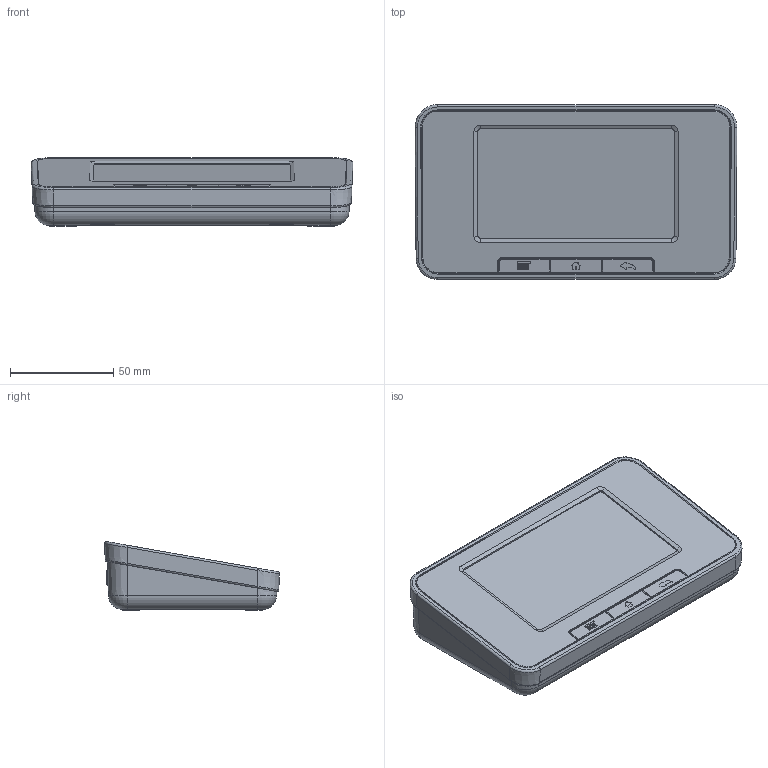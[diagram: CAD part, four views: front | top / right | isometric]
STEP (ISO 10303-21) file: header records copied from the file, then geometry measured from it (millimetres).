
FILE_DESCRIPTION (( 'STEP AP203' ), '1' );
FILE_NAME ('8251010-DSM - X2 Base Unit - External geometry.STEP', '2025-08-28T12:35:38', ( '' ), ( '' ), 'SwSTEP 2.0', 'SolidWorks 2024', '' );
FILE_SCHEMA (( 'CONFIG_CONTROL_DESIGN' ));
Length unit declared in the file: millimetre
Products named in the file (1): 8251010-DSM - X2 Base Unit - External geometry
Bounding box: 155.79 x 84.7 x 33.3 mm (x, y, z)
Surface area: 40360.5 mm2 (no closed solid volume)
Topology: 0 solids, 18 shells, 278 faces, 889 edges, 627 vertices
Faces by surface type: plane 148, cylinder 73, bspline 25, cone 24, torus 8
Full cylindrical faces by diameter (mm): 2.2 x1, 2.8 x1, 3.2 x1, 5.3 x1, 6.6 x1
Entity records: 11201 total; most frequent: CARTESIAN_POINT 3917, ORIENTED_EDGE 1420, DIRECTION 1343, EDGE_CURVE 878, VERTEX_POINT 625, LINE 539, VECTOR 539, AXIS2_PLACEMENT_3D 402
